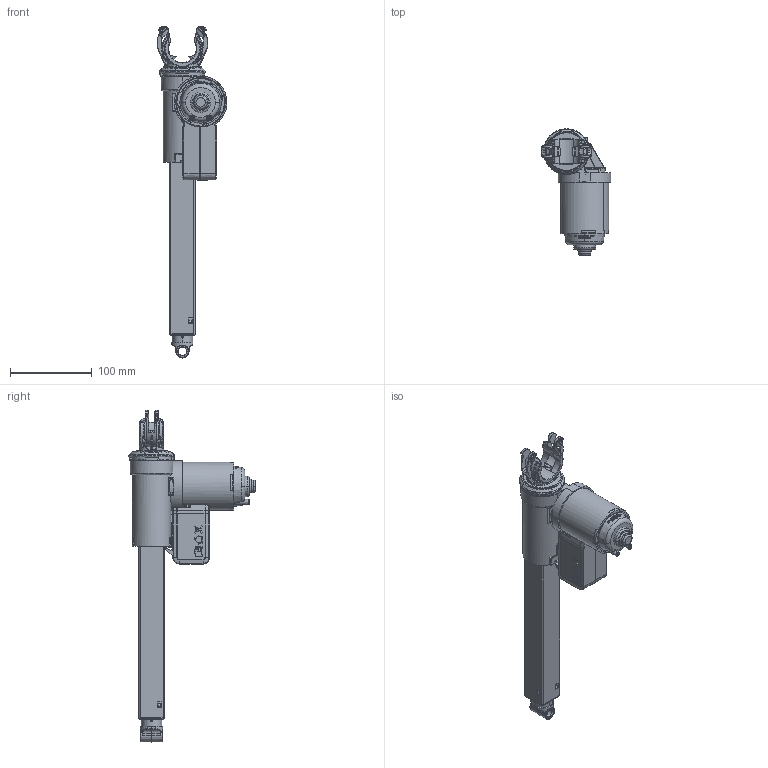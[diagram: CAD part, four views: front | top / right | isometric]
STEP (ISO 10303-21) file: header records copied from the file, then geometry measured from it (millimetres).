
FILE_DESCRIPTION((''),'2;1');
FILE_NAME('1026W4015_ASM','2020-03-31T21:49:27',('ti'),(''),'CREO PARAMETRIC BY PTC INC, 2019344','CREO PARAMETRIC BY PTC INC, 2019344','');
FILE_SCHEMA(('AUTOMOTIVE_DESIGN { 1 0 10303 214 1 1 1 1 }'));
Products named in the file (7): 1026W4016; 1026W4017; 1026W4018; 1026W4020; 1026W4022; 1026W4002; 1026W4015_ASM
Assembly tree (6 placements, depth 2):
  1026W4015_ASM
    1026W4016
    1026W4017
    1026W4018
    1026W4020
    1026W4022
    1026W4002
Bounding box: 85.48 x 154.74 x 405.96 mm (x, y, z)
Volume: 1033567.9 mm3; surface area: 165530.9 mm2
Topology: 8 solids, 8 shells, 3612 faces, 9379 edges, 5875 vertices
Faces by surface type: plane 1708, cylinder 720, bspline 527, torus 348, cone 167, sphere 128, extrusion 14
Entity records: 152532 total; most frequent: CARTESIAN_POINT 59281, ORIENTED_EDGE 18680, DIRECTION 15155, EDGE_CURVE 9340, VERTEX_POINT 5875, AXIS2_PLACEMENT_3D 5552, VECTOR 4051, LINE 4037
